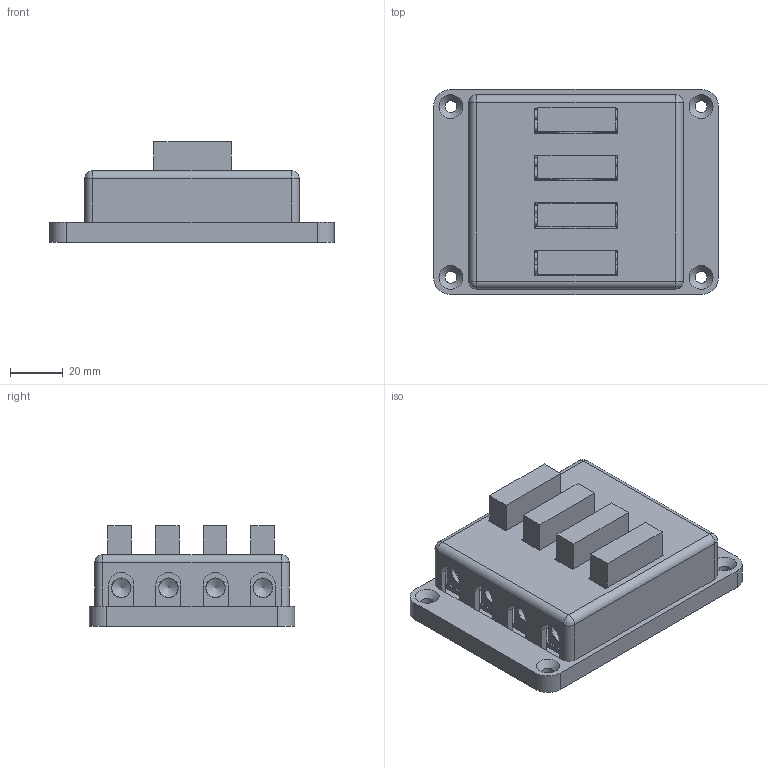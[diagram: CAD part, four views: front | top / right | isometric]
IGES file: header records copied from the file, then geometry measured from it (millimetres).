
Global section: file name: No Iges File Name specified; native system: AutoDesk Inventor R5.0; preprocessor: AutoDesk Inventor Iges Exporter R5.0; author: No Author specified; organization: No Organization specified; date: 20040208.193116; units: inch
Bounding box: 107.5 x 77.5 x 38 mm (x, y, z)
Surface area: 91885.8 mm2 (no closed solid volume)
Topology: 0 solids, 0 shells, 602 faces, 3140 edges, 3060 vertices
Faces by surface type: plane 343, bspline 159, revolution 100
